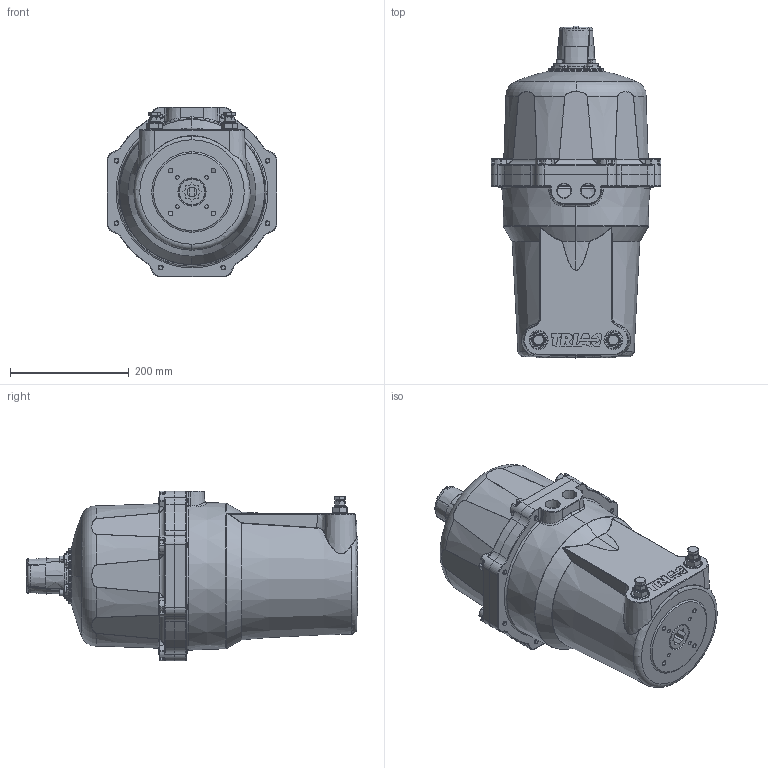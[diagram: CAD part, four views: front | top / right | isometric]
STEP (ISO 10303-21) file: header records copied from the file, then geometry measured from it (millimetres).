
FILE_DESCRIPTION (( 'STEP AP214' ), '1' );
FILE_NAME ('SRX-1200-XXX-FC.STEP', '2020-02-20T18:48:57', ( '' ), ( '' ), 'SwSTEP 2.0', 'SolidWorks 2019', '' );
FILE_SCHEMA (( 'AUTOMOTIVE_DESIGN' ));
Length unit declared in the file: inch
Products named in the file (1): SRX-1200-XXX-FC
Bounding box: 286 x 559 x 286 mm (x, y, z)
Surface area: 518464.2 mm2 (no closed solid volume)
Topology: 0 solids, 52 shells, 1214 faces, 3474 edges, 2196 vertices
Faces by surface type: cylinder 370, plane 322, torus 234, bspline 188, cone 96, sphere 4
Entity records: 65387 total; most frequent: CARTESIAN_POINT 19434, DIRECTION 6547, ORIENTED_EDGE 5823, EDGE_CURVE 3448, AXIS2_PLACEMENT_3D 2700, VERTEX_POINT 2196, CIRCLE 1673, EDGE_LOOP 1296
